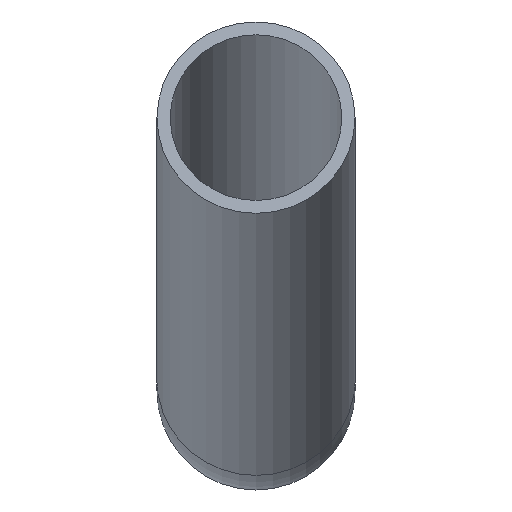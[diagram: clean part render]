
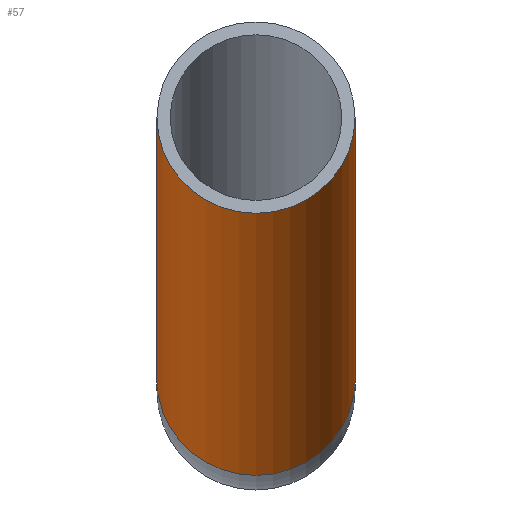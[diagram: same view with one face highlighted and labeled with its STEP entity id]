
A CAD part, front view. The second image highlights one B-rep face of the part: STEP entity #57.
In plain terms, the highlighted cylindrical face has radius 7.5 mm (diameter 15 mm), a full revolution.
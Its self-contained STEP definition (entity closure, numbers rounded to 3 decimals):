
#57=ADVANCED_FACE('',(#97,#99),#101,.T.);
#97=FACE_OUTER_BOUND('',#98,.T.);
#98=EDGE_LOOP('',(#141));
#99=FACE_OUTER_BOUND('',#100,.T.);
#100=EDGE_LOOP('',(#142));
#101=CYLINDRICAL_SURFACE('',#102,7.5);
#102=AXIS2_PLACEMENT_3D('',#103,#104,#105);
#103=CARTESIAN_POINT('',(0.,-3.179,0.852));
#104=DIRECTION('',(0.,-0.966,0.259));
#105=DIRECTION('',(-1.,0.,0.));
#141=ORIENTED_EDGE('',*,*,#153,.T.);
#142=ORIENTED_EDGE('',*,*,#155,.F.);
#153=EDGE_CURVE('',#165,#165,#166,.T.);
#155=EDGE_CURVE('',#169,#169,#170,.T.);
#165=VERTEX_POINT('',#193);
#166=CIRCLE('',#194,7.5);
#169=VERTEX_POINT('',#203);
#170=CIRCLE('',#204,7.5);
#193=CARTESIAN_POINT('',(-7.5,-3.179,0.852));
#194=AXIS2_PLACEMENT_3D('',#195,#196,#197);
#195=CARTESIAN_POINT('',(0.,-3.179,0.852));
#196=DIRECTION('',(0.,-0.966,0.259));
#197=DIRECTION('',(-1.,0.,0.));
#203=CARTESIAN_POINT('',(-7.5,-77.274,20.706));
#204=AXIS2_PLACEMENT_3D('',#205,#206,#207);
#205=CARTESIAN_POINT('',(0.,-77.274,20.706));
#206=DIRECTION('',(0.,-0.966,0.259));
#207=DIRECTION('',(-1.,0.,0.));
